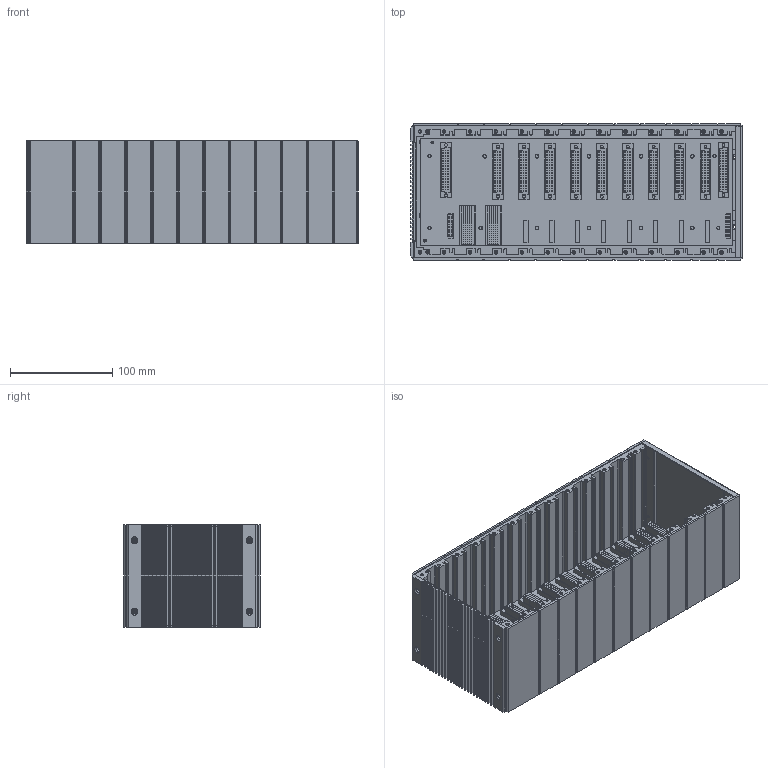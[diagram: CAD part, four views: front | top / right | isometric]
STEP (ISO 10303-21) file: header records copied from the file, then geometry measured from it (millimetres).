
FILE_DESCRIPTION((''),'2;1');
FILE_NAME('IOPAC_8600-9S_ASM','2016-11-24T',('BensonYC_Lee'),('PTC'),'PRO/ENGINEER BY PARAMETRIC TECHNOLOGY CORPORATION, 2012360','PRO/ENGINEER BY PARAMETRIC TECHNOLOGY CORPORATION, 2012360','');
FILE_SCHEMA(('AUTOMOTIVE_DESIGN { 1 0 10303 214 1 1 1 1 }'));
Products named in the file (11): RIGHT-CVR-8600; TOPCVR-8600-9S-W-SLIDER; HEAT-PLATE-L_E81XX; BACK-PLATE-9S-8600; PCB-BACKPLANE-8600-9S; 1126002048000_48P-F-DIN41612; 1126190021210_BAT-CON-F; ERNI_103670; ERNI_244837; PCBA-BACKPLANE-8600-9S_ASM; IOPAC_8600-9S_ASM
Assembly tree (30 placements, depth 3):
  IOPAC_8600-9S_ASM
    RIGHT-CVR-8600
    TOPCVR-8600-9S-W-SLIDER  x2
    HEAT-PLATE-L_E81XX
    BACK-PLATE-9S-8600
    PCBA-BACKPLANE-8600-9S_ASM
      PCB-BACKPLANE-8600-9S
      1126002048000_48P-F-DIN41612  x11
      1126190021210_BAT-CON-F  x2
      ERNI_103670  x2
      ERNI_244837  x8
Bounding box: 324.8 x 133.35 x 100 mm (x, y, z)
Volume: 762155.1 mm3; surface area: 480513.8 mm2
Topology: 58 solids, 58 shells, 9260 faces, 22679 edges, 14890 vertices
Faces by surface type: plane 8139, cylinder 813, cone 304, torus 4
Entity records: 93888 total; most frequent: CARTESIAN_POINT 13816, DIRECTION 13401, ORIENTED_EDGE 13310, EDGE_CURVE 6655, VECTOR 5395, LINE 5395, PRESENTATION_STYLE_ASSIGNMENT 4375, STYLED_ITEM 4375
